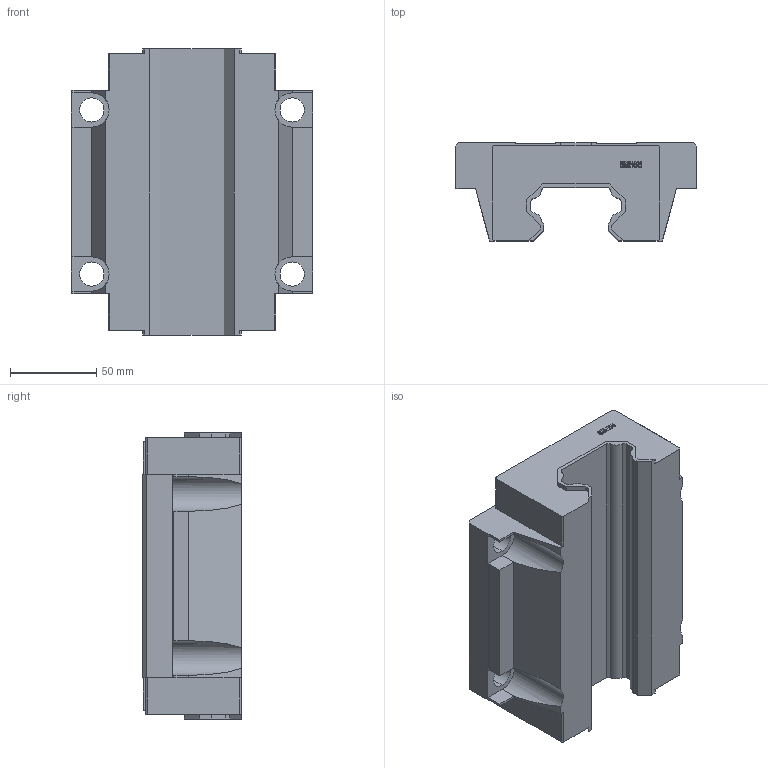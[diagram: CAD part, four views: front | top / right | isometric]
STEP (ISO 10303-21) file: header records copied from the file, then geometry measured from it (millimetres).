
FILE_DESCRIPTION (( 'STEP AP203' ), '1' );
FILE_NAME ('SMH55A.stp', '2019-09-23T06:41:20', ( 'pgos' ), ( '' ), 'SwSTEP 2.0', 'SolidWorks 2014', '' );
FILE_SCHEMA (( 'CONFIG_CONTROL_DESIGN' ));
Length unit declared in the file: millimetre
Products named in the file (1): SMH55A
Bounding box: 140 x 57 x 165.7 mm (x, y, z)
Volume: 796912.4 mm3; surface area: 85857.4 mm2
Topology: 1 solids, 1 shells, 193 faces, 558 edges, 372 vertices
Faces by surface type: plane 153, cylinder 20, bspline 20
Entity records: 8001 total; most frequent: CARTESIAN_POINT 2944, ORIENTED_EDGE 1116, DIRECTION 898, EDGE_CURVE 558, LINE 470, VECTOR 470, VERTEX_POINT 372, AXIS2_PLACEMENT_3D 214
